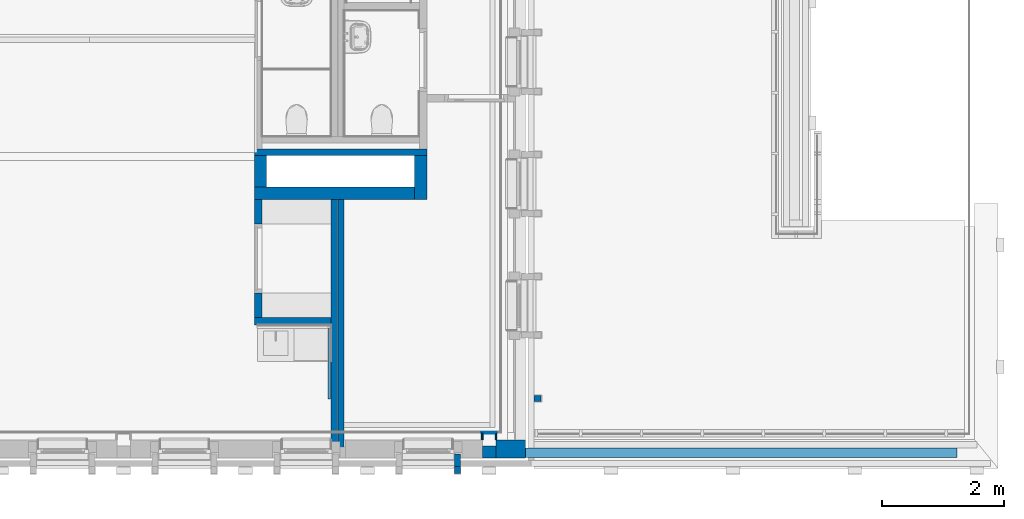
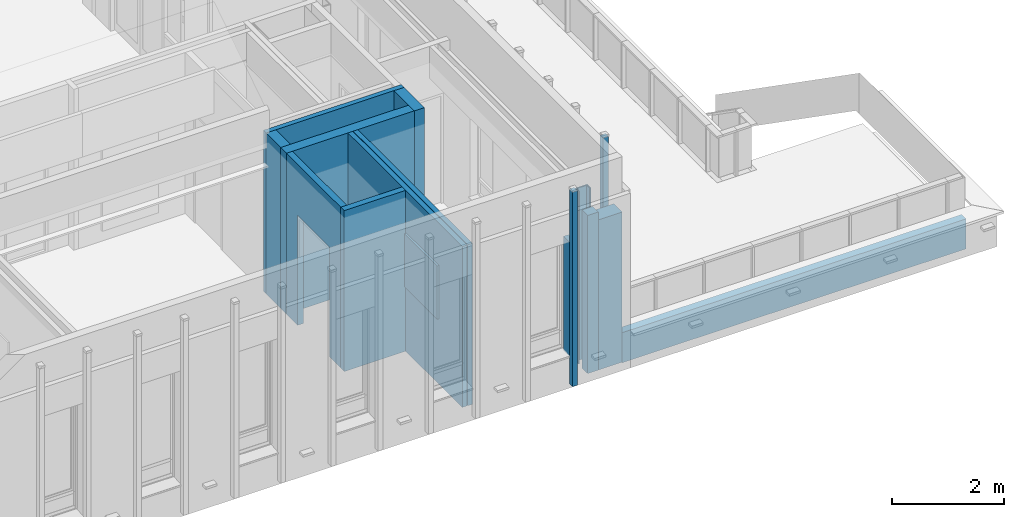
# One storey, part 41 of 118: 21 walls, 1 opening.
"""IFC2X3 building model written with IfcOpenShell, lengths in millimetres."""

from ifc_helpers import new_model, entity, si_unit, converted_unit, derived_unit, direction, frame, frame_2d, origin, place, context, subcontext, project, spatial, rectangle, extrude, material, layer, layer_set, layer_usage, type_object, element, save


model = new_model("IFC2X3")

# Units and contexts
model_context = context("Model", 3, precision=0.01, world=origin(), true_north=direction((6.123031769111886e-17, 1.0)))
plan_context = context("Plan", 3, precision=0.01, world=origin(), true_north=direction((6.123031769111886e-17, 1.0)))
body_context = subcontext(model_context, "Body", "Model", "MODEL_VIEW")
ifc_project = project(units=[si_unit("LENGTHUNIT", "METRE", prefix="MILLI"), si_unit("AREAUNIT", "SQUARE_METRE"), si_unit("VOLUMEUNIT", "CUBIC_METRE"), converted_unit("PLANEANGLEUNIT", "DEGREE", entity("IfcRatioMeasure", 0.017453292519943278), si_unit("PLANEANGLEUNIT", "RADIAN"), dimensions=[0, 0, 0, 0, 0, 0, 0]), si_unit("MASSUNIT", "GRAM", prefix="KILO"), derived_unit("MASSDENSITYUNIT", [(si_unit("MASSUNIT", "GRAM", prefix="KILO"), 1), (si_unit("LENGTHUNIT", "METRE"), -3)]), derived_unit("IONCONCENTRATIONUNIT", [(si_unit("MASSUNIT", "GRAM", prefix="KILO"), 1), (si_unit("LENGTHUNIT", "METRE"), -3)]), derived_unit("MOMENTOFINERTIAUNIT", [(si_unit("LENGTHUNIT", "METRE"), 4)]), si_unit("TIMEUNIT", "SECOND"), si_unit("FREQUENCYUNIT", "HERTZ"), si_unit("THERMODYNAMICTEMPERATUREUNIT", "DEGREE_CELSIUS"), derived_unit("THERMALTRANSMITTANCEUNIT", [(si_unit("MASSUNIT", "GRAM", prefix="KILO"), 1), (si_unit("THERMODYNAMICTEMPERATUREUNIT", "KELVIN"), -1), (si_unit("TIMEUNIT", "SECOND"), -3)]), derived_unit("THERMALCONDUCTANCEUNIT", [(si_unit("MASSUNIT", "GRAM", prefix="KILO"), 1), (si_unit("THERMODYNAMICTEMPERATUREUNIT", "KELVIN"), -1), (si_unit("TIMEUNIT", "SECOND"), -3), (si_unit("LENGTHUNIT", "METRE"), 1)]), derived_unit("VOLUMETRICFLOWRATEUNIT", [(si_unit("LENGTHUNIT", "METRE"), 3), (si_unit("TIMEUNIT", "SECOND"), -1)]), derived_unit("MASSFLOWRATEUNIT", [(si_unit("MASSUNIT", "GRAM", prefix="KILO"), 1), (si_unit("TIMEUNIT", "SECOND"), -1)]), derived_unit("ROTATIONALFREQUENCYUNIT", [(si_unit("TIMEUNIT", "SECOND"), -1)]), si_unit("ELECTRICCURRENTUNIT", "AMPERE"), si_unit("ELECTRICVOLTAGEUNIT", "VOLT"), si_unit("POWERUNIT", "WATT"), si_unit("FORCEUNIT", "NEWTON", prefix="KILO"), si_unit("ILLUMINANCEUNIT", "LUX"), si_unit("LUMINOUSFLUXUNIT", "LUMEN"), si_unit("LUMINOUSINTENSITYUNIT", "CANDELA"), derived_unit("USERDEFINED", [(si_unit("MASSUNIT", "GRAM", prefix="KILO"), -1), (si_unit("LENGTHUNIT", "METRE"), -2), (si_unit("TIMEUNIT", "SECOND"), 3), (si_unit("LUMINOUSFLUXUNIT", "LUMEN"), 1)]), derived_unit("USERDEFINED", [(si_unit("MASSUNIT", "GRAM", prefix="KILO"), 1), (si_unit("TIMEUNIT", "SECOND"), -3), (si_unit("LENGTHUNIT", "METRE"), 3), (si_unit("ELECTRICCURRENTUNIT", "AMPERE"), -2)]), derived_unit("SOUNDPOWERUNIT", [(si_unit("MASSUNIT", "GRAM", prefix="KILO"), 1), (si_unit("TIMEUNIT", "SECOND"), -3), (si_unit("LENGTHUNIT", "METRE"), 2)]), derived_unit("SOUNDPRESSUREUNIT", [(si_unit("MASSUNIT", "GRAM", prefix="KILO"), 1), (si_unit("LENGTHUNIT", "METRE"), -1), (si_unit("TIMEUNIT", "SECOND"), -2)]), derived_unit("LINEARVELOCITYUNIT", [(si_unit("LENGTHUNIT", "METRE"), 1), (si_unit("TIMEUNIT", "SECOND"), -1)]), si_unit("PRESSUREUNIT", "PASCAL"), derived_unit("USERDEFINED", [(si_unit("MASSUNIT", "GRAM", prefix="KILO"), 1), (si_unit("LENGTHUNIT", "METRE"), -2), (si_unit("TIMEUNIT", "SECOND"), -2)]), derived_unit("LINEARFORCEUNIT", [(si_unit("MASSUNIT", "GRAM", prefix="KILO"), 1), (si_unit("TIMEUNIT", "SECOND"), -2)]), derived_unit("PLANARFORCEUNIT", [(si_unit("MASSUNIT", "GRAM", prefix="KILO"), 1), (si_unit("LENGTHUNIT", "METRE"), -1), (si_unit("TIMEUNIT", "SECOND"), -2)]), derived_unit("SPECIFICHEATCAPACITYUNIT", [(si_unit("THERMODYNAMICTEMPERATUREUNIT", "KELVIN"), -1), (si_unit("LENGTHUNIT", "METRE"), 2), (si_unit("TIMEUNIT", "SECOND"), -2)]), derived_unit("HEATINGVALUEUNIT", [(si_unit("LENGTHUNIT", "METRE"), 2), (si_unit("TIMEUNIT", "SECOND"), -2)]), derived_unit("VAPORPERMEABILITYUNIT", [(si_unit("LENGTHUNIT", "METRE"), -1), (si_unit("TIMEUNIT", "SECOND"), 1)]), derived_unit("DYNAMICVISCOSITYUNIT", [(si_unit("MASSUNIT", "GRAM", prefix="KILO"), 1), (si_unit("TIMEUNIT", "SECOND"), -1), (si_unit("LENGTHUNIT", "METRE"), -1)]), derived_unit("THERMALEXPANSIONCOEFFICIENTUNIT", [(si_unit("THERMODYNAMICTEMPERATUREUNIT", "KELVIN"), -1)]), derived_unit("MODULUSOFELASTICITYUNIT", [(si_unit("MASSUNIT", "GRAM", prefix="KILO"), 1), (si_unit("LENGTHUNIT", "METRE"), -1), (si_unit("TIMEUNIT", "SECOND"), -2)]), derived_unit("ISOTHERMALMOISTURECAPACITYUNIT", [(si_unit("LENGTHUNIT", "METRE"), 3), (si_unit("MASSUNIT", "GRAM", prefix="KILO"), -1)]), derived_unit("MOISTUREDIFFUSIVITYUNIT", [(si_unit("TIMEUNIT", "SECOND"), -1), (si_unit("LENGTHUNIT", "METRE"), 2)])], contexts=[model_context, plan_context])

# Site, building, storey
site_placement = place(None, origin())
site = spatial("IfcSite", under=ifc_project, at=site_placement, Name="Locatie", CompositionType="ELEMENT")
building_placement = place(site_placement, origin())
building = spatial("IfcBuilding", under=site, at=building_placement, Name="Bouwwerk", CompositionType="ELEMENT")
storey_placement = place(building_placement, frame((0.0, 0.0, 7800.0)))
storey = spatial("IfcBuildingStorey", under=building, at=storey_placement, Name="02 tweede verdieping", CompositionType="ELEMENT", Elevation=7800.000000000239)

# Walls
ifc_material_1 = material(Name="n7_isolatie_glaswol")
ifc_layer_1 = layer(ifc_material_1, 30.0)
ifc_layer_2 = layer(ifc_material_1, 245.0)
ifc_material_2 = material(Name="i4_multiplex")
ifc_layer_3 = layer(ifc_material_2, 12.0)
ifc_material_3 = material(Name="f7_gipsvezel")
ifc_layer_4 = layer(ifc_material_3, 13.000000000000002)
ifc_layer_set_1 = layer_set([ifc_layer_1, ifc_layer_2, ifc_layer_3, ifc_layer_4], Name="Basic Wall:NLRS_22_WA_HSB bispouw 30-245-12-13 glaswol_gen_ISR")
ifc_layer_usage_1 = layer_usage(ifc_layer_set_1, "AXIS2", "NEGATIVE", 150.0)
wall_type_1 = type_object("IfcWallType", Name="Basic Wall:NLRS_22_WA_HSB bispouw 30-245-12-13 glaswol_gen_ISR", PredefinedType="STANDARD", material=ifc_layer_set_1)
wall_1_placement = place(storey_placement, frame((34900.0, 9850.0, -30.0), z_axis=(0.0, 0.0, 1.0), x_axis=(-1.0, 0.0, 0.0)))
element("IfcWallStandardCase", 1, at=wall_1_placement, inside=storey, type_object=wall_type_1, material=ifc_layer_usage_1, Name="Basic Wall:NLRS_22_WA_HSB bispouw 30-245-12-13 glaswol_gen_ISR", ObjectType="Basic Wall:NLRS_22_WA_HSB bispouw 30-245-12-13 glaswol_gen_ISR", context=body_context, shape_type="SweptSolid", body=[
    extrude(rectangle(XDim=489.99999999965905, YDim=300.0000000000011, at=frame_2d((244.99999999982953, 0.0), x_axis=(-1.0, 0.0))), origin(), (0.0, 0.0, 1.0), 3265.9999999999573),
])
ifc_material_4 = material(Name="g2_metselwerk_geel licht")
ifc_layer_5 = layer(ifc_material_4, 100.0)
ifc_layer_set_2 = layer_set([ifc_layer_5], Name="Basic Wall:21_WA_metselwerk_licht_100_gen_bdg")
ifc_layer_usage_2 = layer_usage(ifc_layer_set_2, "AXIS2", "POSITIVE", -50.0)
wall_type_2 = type_object("IfcWallType", Name="Basic Wall:21_WA_metselwerk_licht_100_gen_bdg", PredefinedType="STANDARD", material=ifc_layer_set_2)
wall_2_placement = place(storey_placement, frame((33782.0, 9770.0, 603.0), z_axis=(0.0, 0.0, 1.0), x_axis=(0.0, -1.0, 0.0)))
element("IfcWallStandardCase", 2, at=wall_2_placement, inside=storey, type_object=wall_type_2, material=ifc_layer_usage_2, Name="Basic Wall:21_WA_metselwerk_licht_100_gen_bdg", ObjectType="Basic Wall:21_WA_metselwerk_licht_100_gen_bdg", context=body_context, shape_type="SweptSolid", body=[
    extrude(rectangle(XDim=210.00000000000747, YDim=100.00000000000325, at=frame_2d((105.00000000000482, 1.3145040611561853e-12), x_axis=(-1.0, 0.0))), origin(), (0.0, 0.0, 1.0), 2471.999999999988),
])
wall_3_placement = place(storey_placement, frame((33782.0, 9560.0, 0.0), z_axis=(0.0, 0.0, 1.0), x_axis=(0.0, -1.0, 0.0)))
element("IfcWallStandardCase", 3, at=wall_3_placement, inside=storey, type_object=wall_type_2, material=ifc_layer_usage_2, Name="Basic Wall:21_WA_metselwerk_licht_100_gen_bdg", ObjectType="Basic Wall:21_WA_metselwerk_licht_100_gen_bdg", context=body_context, shape_type="SweptSolid", body=[
    extrude(rectangle(XDim=115.00000000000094, YDim=100.00000000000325, at=frame_2d((57.50000000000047, 3.730349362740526e-13), x_axis=(-1.0, 0.0))), origin(), (0.0, 0.0, 1.0), 4231.99999999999),
])
wall_4_placement = place(storey_placement, frame((35040.0, 10682.0, 0.0)))
element("IfcWallStandardCase", 4, at=wall_4_placement, inside=storey, type_object=wall_type_2, material=ifc_layer_usage_2, Name="Basic Wall:21_WA_metselwerk_licht_100_gen_bdg", ObjectType="Basic Wall:21_WA_metselwerk_licht_100_gen_bdg", context=body_context, shape_type="SweptSolid", body=[
    extrude(rectangle(XDim=115.00000000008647, YDim=99.99999999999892, at=frame_2d((57.50000000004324, -1.9895196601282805e-13), x_axis=(-1.0, 0.0))), origin(), (0.0, 0.0, 1.0), 4231.999999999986),
])
ifc_layer_6 = layer(ifc_material_3, 12.5)
ifc_material_5 = material(Name="f7_gips")
ifc_layer_7 = layer(ifc_material_5, 12.5)
ifc_layer_8 = layer(ifc_material_1, 75.0)
ifc_layer_9 = layer(ifc_material_5, 12.5)
ifc_layer_10 = layer(ifc_material_3, 12.5)
ifc_layer_set_3 = layer_set([ifc_layer_6, ifc_layer_7, ifc_layer_8, ifc_layer_9, ifc_layer_10], Name="Basic Wall: 25-75-25 _gen_bdg")
ifc_layer_usage_3 = layer_usage(ifc_layer_set_3, "AXIS2", "NEGATIVE", 62.50000000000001)
wall_type_3 = type_object("IfcWallType", Name="Basic Wall: 25-75-25 _gen_bdg", PredefinedType="STANDARD", material=ifc_layer_set_3)
wall_5_placement = place(storey_placement, frame((31708.50000055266, 11948.500000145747, 0.0), z_axis=(0.0, 0.0, 1.0), x_axis=(-1.0, 0.0, 0.0)))
element("IfcWallStandardCase", 5, at=wall_5_placement, inside=storey, type_object=wall_type_3, material=ifc_layer_usage_3, Name="Basic Wall: 25-75-25 _gen_bdg", ObjectType="Basic Wall: 25-75-25 _gen_bdg", context=body_context, shape_type="SweptSolid", body=[
    extrude(rectangle(XDim=1263.5000079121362, YDim=125.0000000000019, at=frame_2d((631.7500039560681, 1.6342482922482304e-13), x_axis=(-1.0, 0.0))), origin(), (0.0, 0.0, 1.0), 3500.0000000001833),
])

# Wall, opening
wall_6_placement = place(storey_placement, frame((30507.49999264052, 12011.0, 0.0), z_axis=(0.0, 0.0, 1.0), x_axis=(0.0, 1.0, 0.0)))
wall_6 = element("IfcWallStandardCase", 6, at=wall_6_placement, inside=storey, type_object=wall_type_3, material=ifc_layer_usage_3, Name="Basic Wall: 25-75-25 _gen_bdg", ObjectType="Basic Wall: 25-75-25 _gen_bdg", context=body_context, shape_type="SweptSolid", body=[
    extrude(rectangle(XDim=1933.9999998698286, YDim=125.0000000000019, at=frame_2d((966.9999999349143, -2.7213786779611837e-12), x_axis=(1.0, 0.0))), origin(), (0.0, 0.0, 1.0), 3500.0000000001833),
])
opening_placement = place(wall_6_placement, frame((-12011.0, 30507.49999264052, 0.0), z_axis=(0.0, 0.0, 1.0), x_axis=(0.0, -1.0, 0.0)))
element("IfcOpeningElement", 7, at=opening_placement, cuts=wall_6, Name="Basic Wall: 25-75-25 _gen_bdg", ObjectType="Opening", context=body_context, shape_type="SweptSolid", body=[
    extrude(rectangle(XDim=2387.000000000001, YDim=1134.0, at=frame_2d((1.1368683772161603e-12, -1.0800249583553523e-12), x_axis=(1.0, 0.0))), frame((32094.0, 12978.0, 1193.4999999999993), z_axis=(-1.0, 0.0, 0.0), x_axis=(0.0, 0.0, 1.0)), (0.0, 0.0, 1.0), 3048.0),
])

# Walls
ifc_layer_11 = layer(ifc_material_3, 12.5)
ifc_layer_12 = layer(ifc_material_5, 12.5)
ifc_layer_13 = layer(ifc_material_1, 75.0)
ifc_layer_set_4 = layer_set([ifc_layer_11, ifc_layer_12, ifc_layer_13], Name="Basic Wall:22_WA_voorzetwand_ms100 25-75 _gen_bdg")
ifc_layer_usage_4 = layer_usage(ifc_layer_set_4, "AXIS2", "NEGATIVE", 50.0)
wall_type_4 = type_object("IfcWallType", Name="Basic Wall:22_WA_voorzetwand_ms100 25-75 _gen_bdg", PredefinedType="STANDARD", material=ifc_layer_set_4)
wall_7_placement = place(storey_placement, frame((31866.500000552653, 13945.0, 0.0), z_axis=(0.0, 0.0, 1.0), x_axis=(0.0, -1.0, 0.0)))
element("IfcWallStandardCase", 8, at=wall_7_placement, inside=storey, type_object=wall_type_4, material=ifc_layer_usage_4, Name="Basic Wall:22_WA_voorzetwand_ms100 25-75 _gen_bdg", ObjectType="Basic Wall:22_WA_voorzetwand_ms100 25-75 _gen_bdg", context=body_context, shape_type="SweptSolid", body=[
    extrude(rectangle(XDim=4077.0000000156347, YDim=100.00000000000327, at=frame_2d((2038.5000000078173, -8.526512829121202e-13), x_axis=(-1.0, 0.0))), origin(), (0.0, 0.0, 1.0), 3500.0000000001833),
])
wall_8_placement = place(storey_placement, frame((33280.0, 14720.0, 0.0), z_axis=(0.0, 0.0, 1.0), x_axis=(-1.0, 0.0, 0.0)))
element("IfcWallStandardCase", 9, at=wall_8_placement, inside=storey, type_object=wall_type_4, material=ifc_layer_usage_4, Name="Basic Wall:22_WA_voorzetwand_ms100 25-75 _gen_bdg", ObjectType="Basic Wall:22_WA_voorzetwand_ms100 25-75 _gen_bdg", context=body_context, shape_type="SweptSolid", body=[
    extrude(rectangle(XDim=2835.000007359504, YDim=99.99999999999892, at=frame_2d((1417.500003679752, 3.019806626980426e-13), x_axis=(-1.0, 0.0))), origin(), (0.0, 0.0, 1.0), 3500.0000000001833),
])
ifc_layer_usage_5 = layer_usage(ifc_layer_set_4, "AXIS2", "POSITIVE", -50.0)
wall_9_placement = place(storey_placement, frame((31758.500000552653, 13945.0, 0.0), z_axis=(0.0, 0.0, 1.0), x_axis=(0.0, -1.0, 0.0)))
element("IfcWallStandardCase", 10, at=wall_9_placement, inside=storey, type_object=wall_type_4, material=ifc_layer_usage_5, Name="Basic Wall:22_WA_voorzetwand_ms100 25-75 _gen_bdg", ObjectType="Basic Wall:22_WA_voorzetwand_ms100 25-75 _gen_bdg", context=body_context, shape_type="SweptSolid", body=[
    extrude(rectangle(XDim=4077.0000000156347, YDim=100.00000000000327, at=frame_2d((2038.5000000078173, 8.562039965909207e-13), x_axis=(-1.0, 0.0))), origin(), (0.0, 0.0, 1.0), 3500.0000000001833),
])
ifc_material_6 = material(Name="ISR_Isolatie")
ifc_layer_14 = layer(ifc_material_6, 160.0)
ifc_layer_set_5 = layer_set([ifc_layer_14], Name="Basic Wall:21_WA_isolatie_160_gen_bdg")
ifc_layer_usage_6 = layer_usage(ifc_layer_set_5, "AXIS2", "NEGATIVE", 80.0)
wall_type_5 = type_object("IfcWallType", Name="Basic Wall:21_WA_isolatie_160_gen_bdg", PredefinedType="STANDARD", material=ifc_layer_set_5)
wall_10_placement = place(storey_placement, frame((41980.0, 9790.0, -50.0), z_axis=(0.0, 0.0, 1.0), x_axis=(-1.0, 0.0, 0.0)))
element("IfcWallStandardCase", 11, at=wall_10_placement, inside=storey, type_object=wall_type_5, material=ifc_layer_usage_6, Name="Basic Wall:21_WA_isolatie_160_gen_bdg", ObjectType="Basic Wall:21_WA_isolatie_160_gen_bdg", context=body_context, shape_type="SweptSolid", body=[
    extrude(rectangle(XDim=7080.000000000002, YDim=159.99999999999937, at=frame_2d((3540.000000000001, 5.471179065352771e-13), x_axis=(-1.0, 0.0))), origin(), (0.0, 0.0, 1.0), 652.9999999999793),
])
ifc_layer_15 = layer(ifc_material_3, 12.5)
ifc_layer_16 = layer(ifc_material_5, 12.5)
ifc_layer_17 = layer(ifc_material_1, 75.0)
ifc_material_7 = material(Name="j9_luchtspouw")
ifc_layer_18 = layer(ifc_material_7, 5.0)
ifc_layer_19 = layer(ifc_material_1, 75.0)
ifc_layer_20 = layer(ifc_material_5, 12.5)
ifc_layer_21 = layer(ifc_material_3, 12.5)
ifc_layer_set_6 = layer_set([ifc_layer_15, ifc_layer_16, ifc_layer_17, ifc_layer_18, ifc_layer_19, ifc_layer_20, ifc_layer_21], Name="Basic Wall: 25-75-5-75-25 _gen_bdg")
ifc_layer_usage_7 = layer_usage(ifc_layer_set_6, "AXIS2", "NEGATIVE", 102.50000000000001)
wall_type_6 = type_object("IfcWallType", Name="Basic Wall: 25-75-5-75-25 _gen_bdg", PredefinedType="STANDARD", material=ifc_layer_set_6)
wall_11_placement = place(storey_placement, frame((33177.50000000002, 13945.0, 0.0), z_axis=(0.0, 0.0, 1.0), x_axis=(0.0, 1.0, 0.0)))
element("IfcWallStandardCase", 12, at=wall_11_placement, inside=storey, type_object=wall_type_6, material=ifc_layer_usage_7, Name="Basic Wall: 25-75-5-75-25 _gen_bdg", ObjectType="Basic Wall: 25-75-5-75-25 _gen_bdg", context=body_context, shape_type="SweptSolid", body=[
    extrude(rectangle(XDim=724.999999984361, YDim=204.9999999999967, at=frame_2d((362.4999999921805, 9.237055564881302e-13), x_axis=(-1.0, 0.0))), origin(), (0.0, 0.0, 1.0), 3500.0000000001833),
])
wall_12_placement = place(storey_placement, frame((33075.0, 14047.50000001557, 0.0), z_axis=(0.0, 0.0, 1.0), x_axis=(-1.0, 0.0, 0.0)))
element("IfcWallStandardCase", 13, at=wall_12_placement, inside=storey, type_object=wall_type_6, material=ifc_layer_usage_7, Name="Basic Wall: 25-75-5-75-25 _gen_bdg", ObjectType="Basic Wall: 25-75-5-75-25 _gen_bdg", context=body_context, shape_type="SweptSolid", body=[
    extrude(rectangle(XDim=2630.0000073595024, YDim=205.00000000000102, at=frame_2d((1315.0000036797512, -3.552713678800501e-14), x_axis=(-1.0, 0.0))), origin(), (0.0, 0.0, 1.0), 3500.0000000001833),
])
wall_13_placement = place(storey_placement, frame((30547.49999264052, 14150.0, 0.0), z_axis=(0.0, 0.0, 1.0), x_axis=(0.0, 1.0, 0.0)))
element("IfcWallStandardCase", 14, at=wall_13_placement, inside=storey, type_object=wall_type_6, material=ifc_layer_usage_7, Name="Basic Wall: 25-75-5-75-25 _gen_bdg", ObjectType="Basic Wall: 25-75-5-75-25 _gen_bdg", context=body_context, shape_type="SweptSolid", body=[
    extrude(rectangle(XDim=519.99999998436, YDim=204.9999999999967, at=frame_2d((259.99999999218, 4.334310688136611e-13), x_axis=(-1.0, 0.0))), origin(), (0.0, 0.0, 1.0), 3500.0000000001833),
])
ifc_layer_22 = layer(ifc_material_3, 13.000000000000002)
ifc_layer_set_7 = layer_set([ifc_layer_22], Name="Basic Wall:NLRS_41_WA_gips 13_gen_ISR")
ifc_layer_usage_8 = layer_usage(ifc_layer_set_7, "AXIS2", "NEGATIVE", 6.500000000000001)
wall_type_7 = type_object("IfcWallType", Name="Basic Wall:NLRS_41_WA_gips 13_gen_ISR", PredefinedType="STANDARD", material=ifc_layer_set_7)
wall_14_placement = place(storey_placement, frame((34172.0, 10121.499999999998, 0.0)))
element("IfcWallStandardCase", 15, at=wall_14_placement, inside=storey, type_object=wall_type_7, material=ifc_layer_usage_8, Name="Basic Wall:NLRS_41_WA_gips 13_gen_ISR", ObjectType="Basic Wall:NLRS_41_WA_gips 13_gen_ISR", context=body_context, shape_type="SweptSolid", body=[
    extrude(rectangle(XDim=255.99999999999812, YDim=13.000000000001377, at=frame_2d((127.99999999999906, 0.0), x_axis=(-1.0, 0.0))), origin(), (0.0, 0.0, 1.0), 3750.000000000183),
])
wall_15_placement = place(storey_placement, frame((34421.50000000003, 10115.0, 0.0), z_axis=(0.0, 0.0, 1.0), x_axis=(0.0, -1.0, 0.0)))
element("IfcWallStandardCase", 16, at=wall_15_placement, inside=storey, type_object=wall_type_7, material=ifc_layer_usage_8, Name="Basic Wall:NLRS_41_WA_gips 13_gen_ISR", ObjectType="Basic Wall:NLRS_41_WA_gips 13_gen_ISR", context=body_context, shape_type="SweptSolid", body=[
    extrude(rectangle(XDim=115.00000000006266, YDim=12.999999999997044, at=frame_2d((57.50000000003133, 0.0), x_axis=(-1.0, 0.0))), origin(), (0.0, 0.0, 1.0), 3750.000000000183),
])
ifc_layer_usage_9 = layer_usage(ifc_layer_set_7, "AXIS2", "POSITIVE", -6.500000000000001)
wall_16_placement = place(storey_placement, frame((34178.50000000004, 10115.0, 0.0), z_axis=(0.0, 0.0, 1.0), x_axis=(0.0, -1.0, 0.0)))
element("IfcWallStandardCase", 17, at=wall_16_placement, inside=storey, type_object=wall_type_7, material=ifc_layer_usage_9, Name="Basic Wall:NLRS_41_WA_gips 13_gen_ISR", ObjectType="Basic Wall:NLRS_41_WA_gips 13_gen_ISR", context=body_context, shape_type="SweptSolid", body=[
    extrude(rectangle(XDim=115.00000000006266, YDim=12.999999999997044, at=frame_2d((57.50000000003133, 0.0), x_axis=(-1.0, 0.0))), origin(), (0.0, 0.0, 1.0), 3750.000000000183),
])
ifc_material_8 = material(Name="n7_isolatie_Resol")
ifc_layer_23 = layer(ifc_material_8, 200.0)
ifc_layer_set_8 = layer_set([ifc_layer_23], Name="Basic Wall:NLRS_22_WA_HSB bispouw 200_gen_ISR")
ifc_layer_usage_10 = layer_usage(ifc_layer_set_8, "AXIS2", "NEGATIVE", 100.0)
wall_type_8 = type_object("IfcWallType", Name="Basic Wall:NLRS_22_WA_HSB bispouw 200_gen_ISR", PredefinedType="STANDARD", material=ifc_layer_set_8)
wall_17_placement = place(storey_placement, frame((34410.0, 9800.0, -30.0), z_axis=(0.0, 0.0, 1.0), x_axis=(-1.0, 0.0, 0.0)))
element("IfcWallStandardCase", 18, at=wall_17_placement, inside=storey, type_object=wall_type_8, material=ifc_layer_usage_10, Name="Basic Wall:NLRS_22_WA_HSB bispouw 200_gen_ISR", ObjectType="Basic Wall:NLRS_22_WA_HSB bispouw 200_gen_ISR", context=body_context, shape_type="SweptSolid", body=[
    extrude(rectangle(XDim=220.00000000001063, YDim=200.0000000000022, at=frame_2d((110.00000000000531, -4.476419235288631e-13), x_axis=(-1.0, 0.0))), origin(), (0.0, 0.0, 1.0), 3440.0000000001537),
])
ifc_material_9 = material(Name="ISR_brandwerende beplating")
ifc_layer_24 = layer(ifc_material_9, 15.0)
ifc_layer_set_9 = layer_set([ifc_layer_24], Name="Basic Wall:NLRS_41_WA_brandwerende beplating 15_gen_ISR")
ifc_layer_usage_11 = layer_usage(ifc_layer_set_9, "AXIS2", "NEGATIVE", 7.5)
wall_type_9 = type_object("IfcWallType", Name="Basic Wall:NLRS_41_WA_brandwerende beplating 15_gen_ISR", PredefinedType="STANDARD", material=ifc_layer_set_9)
wall_18_placement = place(storey_placement, frame((34192.50000000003, 10000.0, 0.0), z_axis=(0.0, 0.0, 1.0), x_axis=(0.0, 1.0, 0.0)))
element("IfcWallStandardCase", 19, at=wall_18_placement, inside=storey, type_object=wall_type_9, material=ifc_layer_usage_11, Name="Basic Wall:NLRS_41_WA_brandwerende beplating 15_gen_ISR", ObjectType="Basic Wall:NLRS_41_WA_brandwerende beplating 15_gen_ISR", context=body_context, shape_type="SweptSolid", body=[
    extrude(rectangle(XDim=114.99999999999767, YDim=14.99999999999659, at=frame_2d((57.499999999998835, 3.3928415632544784e-13), x_axis=(-1.0, 0.0))), origin(), (0.0, 0.0, 1.0), 3750.000000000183),
])
wall_19_placement = place(storey_placement, frame((34200.0, 10107.5, 0.0)))
element("IfcWallStandardCase", 20, at=wall_19_placement, inside=storey, type_object=wall_type_9, material=ifc_layer_usage_11, Name="Basic Wall:NLRS_41_WA_brandwerende beplating 15_gen_ISR", ObjectType="Basic Wall:NLRS_41_WA_brandwerende beplating 15_gen_ISR", context=body_context, shape_type="SweptSolid", body=[
    extrude(rectangle(XDim=214.99999999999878, YDim=15.000000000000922, at=frame_2d((107.49999999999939, -4.489741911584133e-13), x_axis=(-1.0, 0.0))), origin(), (0.0, 0.0, 1.0), 3750.000000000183),
])
wall_20_placement = place(storey_placement, frame((34407.50000000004, 10100.0, 0.0), z_axis=(0.0, 0.0, 1.0), x_axis=(0.0, -1.0, 0.0)))
element("IfcWallStandardCase", 21, at=wall_20_placement, inside=storey, type_object=wall_type_9, material=ifc_layer_usage_11, Name="Basic Wall:NLRS_41_WA_brandwerende beplating 15_gen_ISR", ObjectType="Basic Wall:NLRS_41_WA_brandwerende beplating 15_gen_ISR", context=body_context, shape_type="SweptSolid", body=[
    extrude(rectangle(XDim=99.99999999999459, YDim=14.99999999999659, at=frame_2d((49.99999999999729, 2.9531932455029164e-13), x_axis=(-1.0, 0.0))), origin(), (0.0, 0.0, 1.0), 3750.000000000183),
])
ifc_material_10 = material(Name="f7_binnenwandafwerking")
ifc_layer_25 = layer(ifc_material_10, 1.0)
ifc_material_11 = material(Name="ISR_Luchtspouw")
ifc_layer_26 = layer(ifc_material_11, 39.0)
ifc_layer_set_10 = layer_set([ifc_layer_25, ifc_layer_26], Name="Basic Wall:NLRS_41_WA_akoestische panelen 40_gen_ISR")
ifc_layer_usage_12 = layer_usage(ifc_layer_set_10, "AXIS2", "NEGATIVE", 20.0)
wall_type_10 = type_object("IfcWallType", Name="Basic Wall:NLRS_41_WA_akoestische panelen 40_gen_ISR", PredefinedType="STANDARD", material=ifc_layer_set_10)
wall_21_placement = place(storey_placement, frame((31673.50000055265, 10671.0, 1450.0), z_axis=(0.0, 0.0, 1.0), x_axis=(0.0, 1.0, 0.0)))
element("IfcWallStandardCase", 22, at=wall_21_placement, inside=storey, type_object=wall_type_10, material=ifc_layer_usage_12, Name="Basic Wall:NLRS_41_WA_akoestische panelen 40_gen_ISR", ObjectType="Basic Wall:NLRS_41_WA_akoestische panelen 40_gen_ISR", context=body_context, shape_type="SweptSolid", body=[
    extrude(rectangle(XDim=1160.0000000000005, YDim=39.999999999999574, at=frame_2d((580.0000000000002, 1.8403056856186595e-12), x_axis=(-1.0, 0.0))), origin(), (0.0, 0.0, 1.0), 1160.0000000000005),
])

save(model, "model.ifc")
